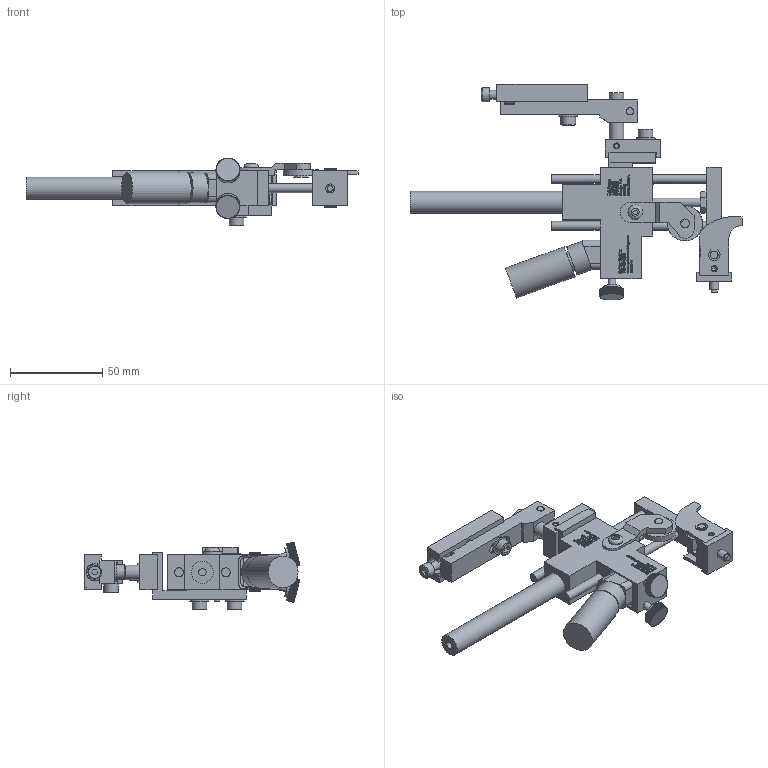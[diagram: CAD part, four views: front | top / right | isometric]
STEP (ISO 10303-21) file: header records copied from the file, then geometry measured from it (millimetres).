
FILE_DESCRIPTION((''),'2;1');
FILE_NAME('C:\Documents and Settings\Ron\My Documents\Inventor\Sprinter Drawing\Machines in Inventor\Model 44\Dot\1-eight\Std\Brkt\90\Model 44 STD .125 Dia Dot 90 Degree w Brkt.stp','2009-01-14T12:22:55',('Ron'),(''),'Autodesk Inventor 2008','Autodesk Inventor 2008','');
FILE_SCHEMA(('AUTOMOTIVE_DESIGN { 1 0 10303 214 1 1 1 1 }'));
Length unit declared in the file: inch
Products named in the file (1): Model 44 STD .125 Dia Dot 90 Degree w Brkt
Bounding box: 180.11 x 117.12 x 36.82 mm (x, y, z)
Volume: 103837.4 mm3; surface area: 51040.1 mm2
Topology: 383 solids, 383 shells, 6184 faces, 15356 edges, 9492 vertices
Faces by surface type: plane 4346, bspline 1316, cylinder 471, cone 46, torus 5
Full cylindrical faces by diameter (mm): 3.175 x5, 3.302 x1, 3.962 x1, 4.064 x6, 4.166 x1, 4.699 x1, 4.75 x4, 4.775 x1, 4.826 x8, 5.144 x1, 5.156 x5, 5.207 x2, 5.41 x2, 6.096 x1, 6.274 x2, 7.239 x1, 7.62 x1, 7.925 x7, 7.938 x1, 8.128 x1, 9.017 x1, 9.525 x2, 10.312 x4, 10.922 x1, 11.036 x1, 11.938 x2, 14.478 x1, 16.256 x1, 17.272 x1, 19.05 x1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
Entity records: 196958 total; most frequent: CARTESIAN_POINT 53939, ORIENTED_EDGE 30274, DIRECTION 23488, EDGE_CURVE 15137, VECTOR 11390, LINE 11390, VERTEX_POINT 9425, EDGE_LOOP 6732
